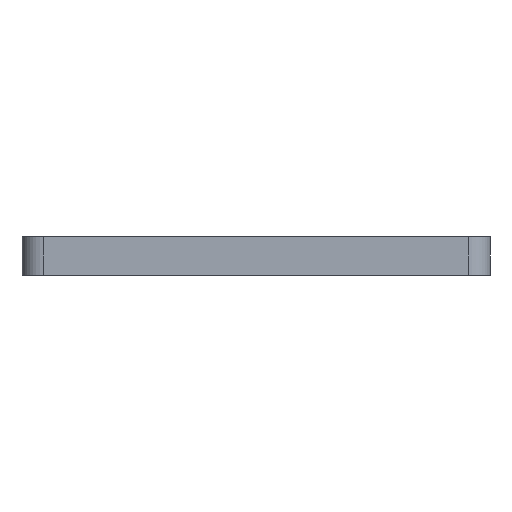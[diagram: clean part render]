
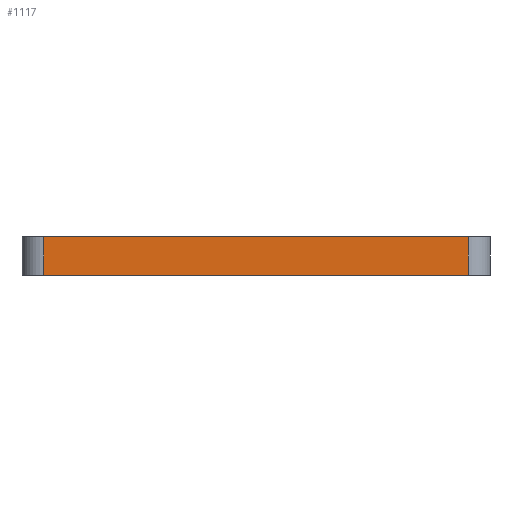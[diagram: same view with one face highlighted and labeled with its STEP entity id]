
A CAD part, left-side view. The second image highlights one B-rep face of the part: STEP entity #1117.
In plain terms, the highlighted planar face has unit normal (-1, 0, 0).
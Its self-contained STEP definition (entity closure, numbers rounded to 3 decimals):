
#35 = DIRECTION ( 'NONE',  ( 0., 0., -1. ) ) ;
#185 = FACE_OUTER_BOUND ( 'NONE', #3048, .T. ) ;
#371 = VECTOR ( 'NONE', #1523, 1000. ) ;
#652 = DIRECTION ( 'NONE',  ( 1., 0., 0. ) ) ;
#756 = EDGE_CURVE ( 'NONE', #1760, #1978, #3601, .T. ) ;
#778 = VECTOR ( 'NONE', #2272, 1000. ) ;
#811 = ORIENTED_EDGE ( 'NONE', *, *, #1269, .T. ) ;
#839 = LINE ( 'NONE', #2037, #2711 ) ;
#999 = AXIS2_PLACEMENT_3D ( 'NONE', #1026, #652, #3264 ) ;
#1026 = CARTESIAN_POINT ( 'NONE',  ( -40., -40., 6.5 ) ) ;
#1117 = ADVANCED_FACE ( 'NONE', ( #185 ), #4495, .F. ) ;
#1173 = CARTESIAN_POINT ( 'NONE',  ( -40., 36.25, 6.5 ) ) ;
#1263 = CARTESIAN_POINT ( 'NONE',  ( -40., 36.25, 0. ) ) ;
#1269 = EDGE_CURVE ( 'NONE', #1581, #3032, #2368, .T. ) ;
#1277 = CARTESIAN_POINT ( 'NONE',  ( -40., -36.25, 6.5 ) ) ;
#1523 = DIRECTION ( 'NONE',  ( 0., 0., 1. ) ) ;
#1581 = VERTEX_POINT ( 'NONE', #1751 ) ;
#1751 = CARTESIAN_POINT ( 'NONE',  ( -40., -36.25, 0. ) ) ;
#1760 = VERTEX_POINT ( 'NONE', #2229 ) ;
#1855 = EDGE_CURVE ( 'NONE', #1760, #3032, #3801, .T. ) ;
#1897 = CARTESIAN_POINT ( 'NONE',  ( -40., -40., 6.5 ) ) ;
#1978 = VERTEX_POINT ( 'NONE', #1263 ) ;
#2028 = EDGE_CURVE ( 'NONE', #1978, #1581, #839, .T. ) ;
#2037 = CARTESIAN_POINT ( 'NONE',  ( -40., -40., 0. ) ) ;
#2229 = CARTESIAN_POINT ( 'NONE',  ( -40., 36.25, 6.5 ) ) ;
#2272 = DIRECTION ( 'NONE',  ( 0., -1., 0. ) ) ;
#2295 = ORIENTED_EDGE ( 'NONE', *, *, #2028, .T. ) ;
#2368 = LINE ( 'NONE', #3689, #371 ) ;
#2652 = ORIENTED_EDGE ( 'NONE', *, *, #756, .T. ) ;
#2711 = VECTOR ( 'NONE', #3791, 1000. ) ;
#3032 = VERTEX_POINT ( 'NONE', #1277 ) ;
#3048 = EDGE_LOOP ( 'NONE', ( #2295, #811, #3718, #2652 ) ) ;
#3264 = DIRECTION ( 'NONE',  ( 0., 0., -1. ) ) ;
#3512 = VECTOR ( 'NONE', #35, 1000. ) ;
#3601 = LINE ( 'NONE', #1173, #3512 ) ;
#3689 = CARTESIAN_POINT ( 'NONE',  ( -40., -36.25, 6.5 ) ) ;
#3718 = ORIENTED_EDGE ( 'NONE', *, *, #1855, .F. ) ;
#3791 = DIRECTION ( 'NONE',  ( 0., -1., 0. ) ) ;
#3801 = LINE ( 'NONE', #1897, #778 ) ;
#4495 = PLANE ( 'NONE',  #999 ) ;
